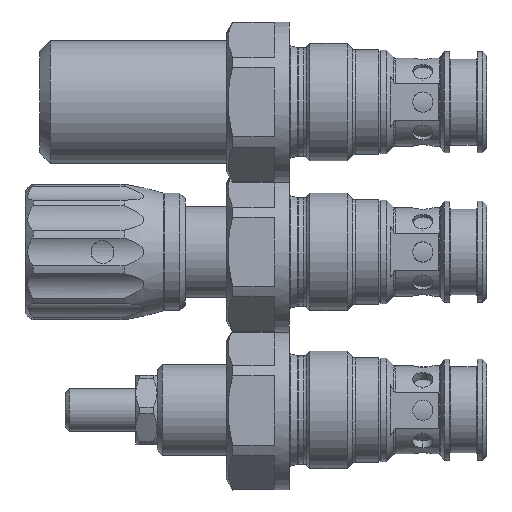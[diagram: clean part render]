
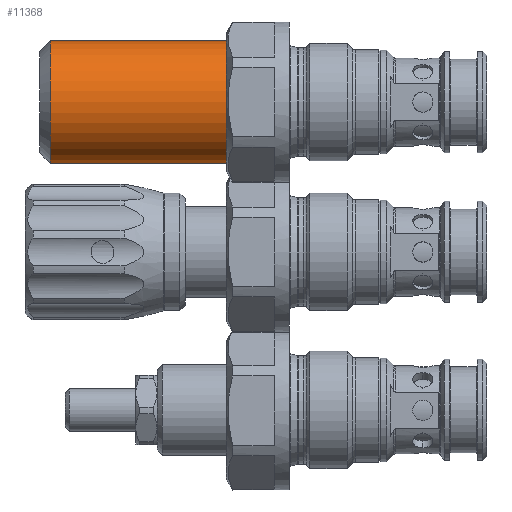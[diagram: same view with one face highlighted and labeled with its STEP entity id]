
A CAD part, front view. The second image highlights one B-rep face of the part: STEP entity #11368.
In plain terms, the highlighted cylindrical face has radius 11.5 mm (diameter 23 mm), a partial arc.
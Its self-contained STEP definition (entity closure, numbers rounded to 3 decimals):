
#432 = EDGE_LOOP ( 'NONE', ( #12191, #2401, #17437, #12098 ) ) ;
#673 = FACE_OUTER_BOUND ( 'NONE', #432, .T. ) ;
#1498 = DIRECTION ( 'NONE',  ( 1., 0., 0. ) ) ;
#1632 = EDGE_CURVE ( 'NONE', #14956, #8816, #7774, .T. ) ;
#1811 = AXIS2_PLACEMENT_3D ( 'NONE', #11510, #1498, #10013 ) ;
#2401 = ORIENTED_EDGE ( 'NONE', *, *, #5301, .T. ) ;
#3390 = DIRECTION ( 'NONE',  ( 0., 0., 1. ) ) ;
#3482 = CARTESIAN_POINT ( 'NONE',  ( -0.916, -25.53, 47.452 ) ) ;
#3864 = CARTESIAN_POINT ( 'NONE',  ( -33.916, -25.53, 70.452 ) ) ;
#4791 = CYLINDRICAL_SURFACE ( 'NONE', #16733, 11.5 ) ;
#5190 = DIRECTION ( 'NONE',  ( -1., 0., 0. ) ) ;
#5279 = CARTESIAN_POINT ( 'NONE',  ( -42.971, -25.53, 70.452 ) ) ;
#5301 = EDGE_CURVE ( 'NONE', #5366, #8760, #16121, .T. ) ;
#5366 = VERTEX_POINT ( 'NONE', #3482 ) ;
#6581 = CARTESIAN_POINT ( 'NONE',  ( -42.971, -25.53, 47.452 ) ) ;
#7774 = CIRCLE ( 'NONE', #1811, 11.5 ) ;
#8760 = VERTEX_POINT ( 'NONE', #17028 ) ;
#8816 = VERTEX_POINT ( 'NONE', #10174 ) ;
#9560 = LINE ( 'NONE', #6581, #16019 ) ;
#10013 = DIRECTION ( 'NONE',  ( 0., 0., -1. ) ) ;
#10174 = CARTESIAN_POINT ( 'NONE',  ( -33.916, -25.53, 47.452 ) ) ;
#10584 = CARTESIAN_POINT ( 'NONE',  ( -0.916, -25.53, 58.952 ) ) ;
#10974 = LINE ( 'NONE', #5279, #17328 ) ;
#11104 = EDGE_CURVE ( 'NONE', #8760, #14956, #10974, .T. ) ;
#11368 = ADVANCED_FACE ( 'NONE', ( #673 ), #4791, .T. ) ;
#11510 = CARTESIAN_POINT ( 'NONE',  ( -33.916, -25.53, 58.952 ) ) ;
#12077 = CARTESIAN_POINT ( 'NONE',  ( -42.971, -25.53, 58.952 ) ) ;
#12098 = ORIENTED_EDGE ( 'NONE', *, *, #1632, .T. ) ;
#12191 = ORIENTED_EDGE ( 'NONE', *, *, #15017, .F. ) ;
#12282 = DIRECTION ( 'NONE',  ( -1., 0., 0. ) ) ;
#14890 = DIRECTION ( 'NONE',  ( -1., 0., 0. ) ) ;
#14956 = VERTEX_POINT ( 'NONE', #3864 ) ;
#15017 = EDGE_CURVE ( 'NONE', #5366, #8816, #9560, .T. ) ;
#16019 = VECTOR ( 'NONE', #12282, 1000. ) ;
#16121 = CIRCLE ( 'NONE', #17609, 11.5 ) ;
#16398 = DIRECTION ( 'NONE',  ( -1., 0., 0. ) ) ;
#16733 = AXIS2_PLACEMENT_3D ( 'NONE', #12077, #14890, #17799 ) ;
#17028 = CARTESIAN_POINT ( 'NONE',  ( -0.916, -25.53, 70.452 ) ) ;
#17328 = VECTOR ( 'NONE', #5190, 1000. ) ;
#17437 = ORIENTED_EDGE ( 'NONE', *, *, #11104, .T. ) ;
#17609 = AXIS2_PLACEMENT_3D ( 'NONE', #10584, #16398, #3390 ) ;
#17799 = DIRECTION ( 'NONE',  ( 0., 0., 1. ) ) ;
